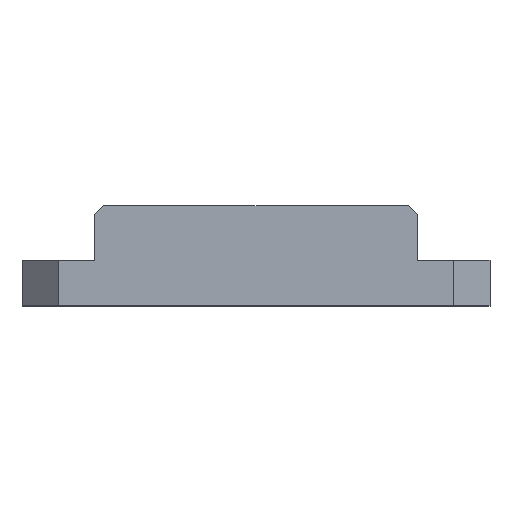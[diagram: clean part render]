
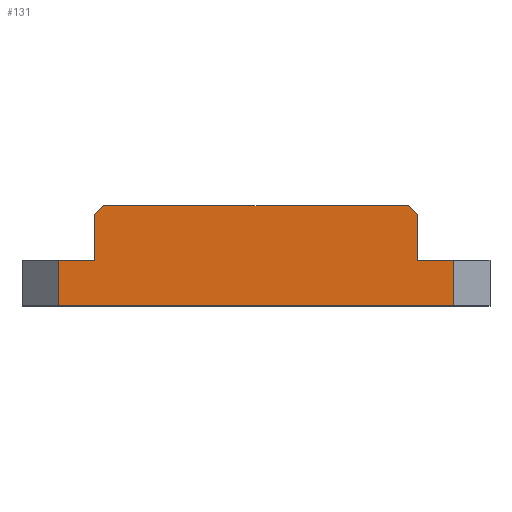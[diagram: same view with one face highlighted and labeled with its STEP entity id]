
A CAD part, top view. The second image highlights one B-rep face of the part: STEP entity #131.
In plain terms, the highlighted planar face has unit normal (0, 0, 1).
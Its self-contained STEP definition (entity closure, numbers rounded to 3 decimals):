
#2 = VERTEX_POINT ( 'NONE', #959 ) ;
#21 = VECTOR ( 'NONE', #1590, 1000. ) ;
#22 = ORIENTED_EDGE ( 'NONE', *, *, #1400, .T. ) ;
#29 = LINE ( 'NONE', #736, #68 ) ;
#68 = VECTOR ( 'NONE', #472, 1000. ) ;
#76 = DIRECTION ( 'NONE',  ( -0.707, 0.707, 0. ) ) ;
#81 = CARTESIAN_POINT ( 'NONE',  ( 0., 0., 50. ) ) ;
#91 = LINE ( 'NONE', #463, #546 ) ;
#100 = DIRECTION ( 'NONE',  ( 0., -1., 0. ) ) ;
#104 = FACE_OUTER_BOUND ( 'NONE', #624, .T. ) ;
#131 = ADVANCED_FACE ( 'NONE', ( #104 ), #312, .T. ) ;
#158 = VECTOR ( 'NONE', #1406, 1000. ) ;
#175 = ORIENTED_EDGE ( 'NONE', *, *, #422, .T. ) ;
#198 = CARTESIAN_POINT ( 'NONE',  ( 33.5, 22., 50. ) ) ;
#231 = CARTESIAN_POINT ( 'NONE',  ( -35.5, 20., 50. ) ) ;
#249 = LINE ( 'NONE', #944, #1210 ) ;
#288 = DIRECTION ( 'NONE',  ( 0., 0., 1. ) ) ;
#292 = EDGE_CURVE ( 'NONE', #1353, #553, #1303, .T. ) ;
#312 = PLANE ( 'NONE',  #1567 ) ;
#410 = CARTESIAN_POINT ( 'NONE',  ( -27.75, 27.75, 50. ) ) ;
#422 = EDGE_CURVE ( 'NONE', #1435, #1444, #821, .T. ) ;
#455 = ORIENTED_EDGE ( 'NONE', *, *, #971, .T. ) ;
#463 = CARTESIAN_POINT ( 'NONE',  ( -43.5, 0., 50. ) ) ;
#472 = DIRECTION ( 'NONE',  ( 0., 1., 0. ) ) ;
#494 = VERTEX_POINT ( 'NONE', #1271 ) ;
#546 = VECTOR ( 'NONE', #1484, 1000. ) ;
#553 = VERTEX_POINT ( 'NONE', #649 ) ;
#559 = DIRECTION ( 'NONE',  ( -1., 0., 0. ) ) ;
#568 = EDGE_CURVE ( 'NONE', #868, #902, #835, .T. ) ;
#577 = DIRECTION ( 'NONE',  ( 1., 0., 0. ) ) ;
#578 = EDGE_CURVE ( 'NONE', #588, #1353, #1145, .T. ) ;
#588 = VERTEX_POINT ( 'NONE', #231 ) ;
#589 = DIRECTION ( 'NONE',  ( 0., 1., 0. ) ) ;
#598 = CARTESIAN_POINT ( 'NONE',  ( 43.5, 10., 50. ) ) ;
#624 = EDGE_LOOP ( 'NONE', ( #1420, #175, #455, #1414, #22, #781, #1549, #1214, #1109, #1116 ) ) ;
#649 = CARTESIAN_POINT ( 'NONE',  ( -43.5, 10., 50. ) ) ;
#677 = LINE ( 'NONE', #779, #21 ) ;
#720 = VECTOR ( 'NONE', #1346, 1000. ) ;
#736 = CARTESIAN_POINT ( 'NONE',  ( 35.5, 10., 50. ) ) ;
#779 = CARTESIAN_POINT ( 'NONE',  ( -51.5, 0., 50. ) ) ;
#781 = ORIENTED_EDGE ( 'NONE', *, *, #568, .T. ) ;
#821 = LINE ( 'NONE', #966, #1431 ) ;
#835 = LINE ( 'NONE', #1030, #158 ) ;
#868 = VERTEX_POINT ( 'NONE', #198 ) ;
#902 = VERTEX_POINT ( 'NONE', #1460 ) ;
#944 = CARTESIAN_POINT ( 'NONE',  ( 51.5, 10., 50. ) ) ;
#959 = CARTESIAN_POINT ( 'NONE',  ( 35.5, 20., 50. ) ) ;
#966 = CARTESIAN_POINT ( 'NONE',  ( 43.5, 10., 50. ) ) ;
#971 = EDGE_CURVE ( 'NONE', #1444, #1349, #249, .T. ) ;
#990 = CARTESIAN_POINT ( 'NONE',  ( -35.5, 22., 50. ) ) ;
#1030 = CARTESIAN_POINT ( 'NONE',  ( 35.5, 22., 50. ) ) ;
#1038 = LINE ( 'NONE', #1108, #1509 ) ;
#1047 = DIRECTION ( 'NONE',  ( -0.707, -0.707, 0. ) ) ;
#1057 = LINE ( 'NONE', #410, #1355 ) ;
#1091 = CARTESIAN_POINT ( 'NONE',  ( -35.5, 10., 50. ) ) ;
#1094 = CARTESIAN_POINT ( 'NONE',  ( 43.5, 0., 50. ) ) ;
#1108 = CARTESIAN_POINT ( 'NONE',  ( 27.75, 27.75, 50. ) ) ;
#1109 = ORIENTED_EDGE ( 'NONE', *, *, #292, .T. ) ;
#1116 = ORIENTED_EDGE ( 'NONE', *, *, #1292, .T. ) ;
#1119 = CARTESIAN_POINT ( 'NONE',  ( 35.5, 10., 50. ) ) ;
#1145 = LINE ( 'NONE', #990, #1570 ) ;
#1210 = VECTOR ( 'NONE', #559, 1000. ) ;
#1214 = ORIENTED_EDGE ( 'NONE', *, *, #578, .T. ) ;
#1271 = CARTESIAN_POINT ( 'NONE',  ( -43.5, 0., 50. ) ) ;
#1292 = EDGE_CURVE ( 'NONE', #553, #494, #91, .T. ) ;
#1303 = LINE ( 'NONE', #1091, #720 ) ;
#1346 = DIRECTION ( 'NONE',  ( -1., 0., 0. ) ) ;
#1349 = VERTEX_POINT ( 'NONE', #1119 ) ;
#1353 = VERTEX_POINT ( 'NONE', #1511 ) ;
#1355 = VECTOR ( 'NONE', #1047, 1000. ) ;
#1400 = EDGE_CURVE ( 'NONE', #2, #868, #1038, .T. ) ;
#1406 = DIRECTION ( 'NONE',  ( -1., 0., 0. ) ) ;
#1414 = ORIENTED_EDGE ( 'NONE', *, *, #1513, .T. ) ;
#1420 = ORIENTED_EDGE ( 'NONE', *, *, #1564, .T. ) ;
#1431 = VECTOR ( 'NONE', #589, 1000. ) ;
#1435 = VERTEX_POINT ( 'NONE', #1094 ) ;
#1444 = VERTEX_POINT ( 'NONE', #598 ) ;
#1460 = CARTESIAN_POINT ( 'NONE',  ( -33.5, 22., 50. ) ) ;
#1484 = DIRECTION ( 'NONE',  ( 0., -1., 0. ) ) ;
#1509 = VECTOR ( 'NONE', #76, 1000. ) ;
#1511 = CARTESIAN_POINT ( 'NONE',  ( -35.5, 10., 50. ) ) ;
#1513 = EDGE_CURVE ( 'NONE', #1349, #2, #29, .T. ) ;
#1549 = ORIENTED_EDGE ( 'NONE', *, *, #1646, .T. ) ;
#1564 = EDGE_CURVE ( 'NONE', #494, #1435, #677, .T. ) ;
#1567 = AXIS2_PLACEMENT_3D ( 'NONE', #81, #288, #577 ) ;
#1570 = VECTOR ( 'NONE', #100, 1000. ) ;
#1590 = DIRECTION ( 'NONE',  ( 1., 0., 0. ) ) ;
#1646 = EDGE_CURVE ( 'NONE', #902, #588, #1057, .T. ) ;
